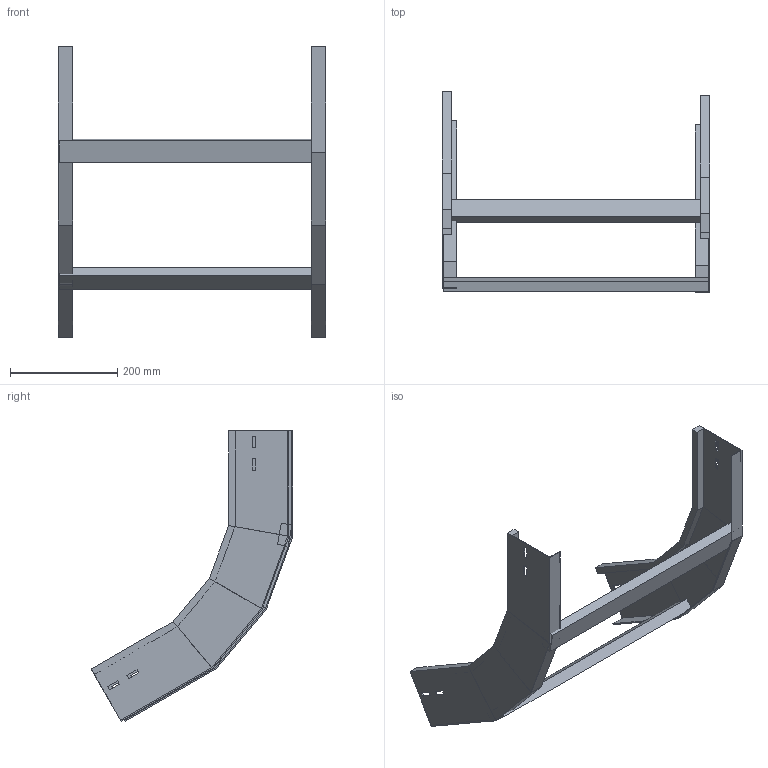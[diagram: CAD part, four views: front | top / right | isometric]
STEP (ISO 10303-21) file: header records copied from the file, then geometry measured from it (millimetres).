
FILE_DESCRIPTION (( 'STEP AP214' ), '1' );
FILE_NAME ('A2X40B3J500XX.step', '2025-04-02T10:00:26', ( '' ), ( '' ), 'SwSTEP 2.0', 'SolidWorks 2023', '' );
FILE_SCHEMA (( 'AUTOMOTIVE_DESIGN' ));
Length unit declared in the file: millimetre
Products named in the file (3): LONGH.SALITA_60°_H112.5_R300; A2X40B3J500XX; TRAVERSINO_500
Assembly tree (4 placements, depth 2):
  A2X40B3J500XX
    LONGH.SALITA_60°_H112.5_R300  x2
    TRAVERSINO_500  x2
Bounding box: 500 x 376.69 x 542.06 mm (x, y, z)
Volume: 1368826.1 mm3; surface area: 513857.4 mm2
Topology: 4 solids, 4 shells, 112 faces, 264 edges, 160 vertices
Faces by surface type: plane 112
Entity records: 1664 total; most frequent: CARTESIAN_POINT 275, ORIENTED_EDGE 264, DIRECTION 258, EDGE_CURVE 132, LINE 132, VECTOR 132, VERTEX_POINT 80, EDGE_LOOP 64
